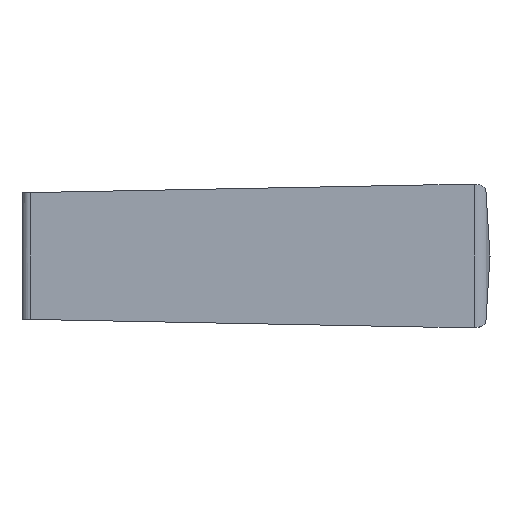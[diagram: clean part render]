
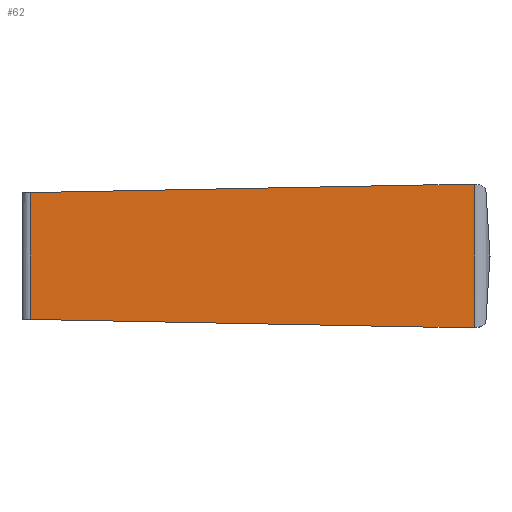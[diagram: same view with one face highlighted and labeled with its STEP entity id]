
A CAD part, left-side view. The second image highlights one B-rep face of the part: STEP entity #62.
In plain terms, the highlighted planar face has unit normal (-1, -0.026, 0).
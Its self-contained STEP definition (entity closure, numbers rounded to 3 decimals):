
#62 = ADVANCED_FACE( '', ( #142 ), #143, .F. );
#142 = FACE_OUTER_BOUND( '', #241, .T. );
#143 = PLANE( '', #242 );
#241 = EDGE_LOOP( '', ( #365, #366, #367, #368, #369, #370 ) );
#242 = AXIS2_PLACEMENT_3D( '', #371, #372, #373 );
#365 = ORIENTED_EDGE( '', *, *, #589, .F. );
#366 = ORIENTED_EDGE( '', *, *, #560, .T. );
#367 = ORIENTED_EDGE( '', *, *, #590, .T. );
#368 = ORIENTED_EDGE( '', *, *, #591, .T. );
#369 = ORIENTED_EDGE( '', *, *, #592, .F. );
#370 = ORIENTED_EDGE( '', *, *, #573, .F. );
#371 = CARTESIAN_POINT( '', ( -4.637, -0.513, 15. ) );
#372 = DIRECTION( '', ( 1., 0.026, 0. ) );
#373 = DIRECTION( '', ( -0.026, 1., 0. ) );
#560 = EDGE_CURVE( '', #656, #654, #657, .T. );
#573 = EDGE_CURVE( '', #679, #681, #682, .T. );
#589 = EDGE_CURVE( '', #656, #679, #707, .T. );
#590 = EDGE_CURVE( '', #654, #708, #709, .T. );
#591 = EDGE_CURVE( '', #708, #710, #711, .T. );
#592 = EDGE_CURVE( '', #681, #710, #712, .T. );
#654 = VERTEX_POINT( '', #793 );
#656 = VERTEX_POINT( '', #795 );
#657 = LINE( '', #796, #797 );
#679 = VERTEX_POINT( '', #843 );
#681 = VERTEX_POINT( '', #845 );
#682 = LINE( '', #846, #847 );
#707 = LINE( '', #914, #915 );
#708 = VERTEX_POINT( '', #916 );
#709 = LINE( '', #917, #918 );
#710 = VERTEX_POINT( '', #919 );
#711 = LINE( '', #920, #921 );
#712 = LINE( '', #922, #923 );
#793 = CARTESIAN_POINT( '', ( -4.637, -0.513, 4.01 ) );
#795 = CARTESIAN_POINT( '', ( -3.973, -25.86, 4.5 ) );
#796 = CARTESIAN_POINT( '', ( -4.631, -0.725, 4.014 ) );
#797 = VECTOR( '', #1075, 1000. );
#843 = CARTESIAN_POINT( '', ( -3.9, -28.626, 4.5 ) );
#845 = CARTESIAN_POINT( '', ( -3.9, -28.626, -4.5 ) );
#846 = CARTESIAN_POINT( '', ( -3.9, -28.626, 15. ) );
#847 = VECTOR( '', #1089, 1000. );
#914 = CARTESIAN_POINT( '', ( -3.835, -31.11, 4.5 ) );
#915 = VECTOR( '', #1109, 1000. );
#916 = CARTESIAN_POINT( '', ( -4.637, -0.513, -4.01 ) );
#917 = CARTESIAN_POINT( '', ( -4.637, -0.513, 15. ) );
#918 = VECTOR( '', #1110, 1000. );
#919 = CARTESIAN_POINT( '', ( -3.973, -25.86, -4.5 ) );
#920 = CARTESIAN_POINT( '', ( -4.646, -0.146, -4.003 ) );
#921 = VECTOR( '', #1111, 1000. );
#922 = CARTESIAN_POINT( '', ( -3.757, -34.097, -4.5 ) );
#923 = VECTOR( '', #1112, 1000. );
#1075 = DIRECTION( '', ( -0.026, 0.999, -0.019 ) );
#1089 = DIRECTION( '', ( 0., 0., -1. ) );
#1109 = DIRECTION( '', ( 0.026, -1., 0. ) );
#1110 = DIRECTION( '', ( 0., 0., -1. ) );
#1111 = DIRECTION( '', ( 0.026, -0.999, -0.019 ) );
#1112 = DIRECTION( '', ( -0.026, 1., 0. ) );
